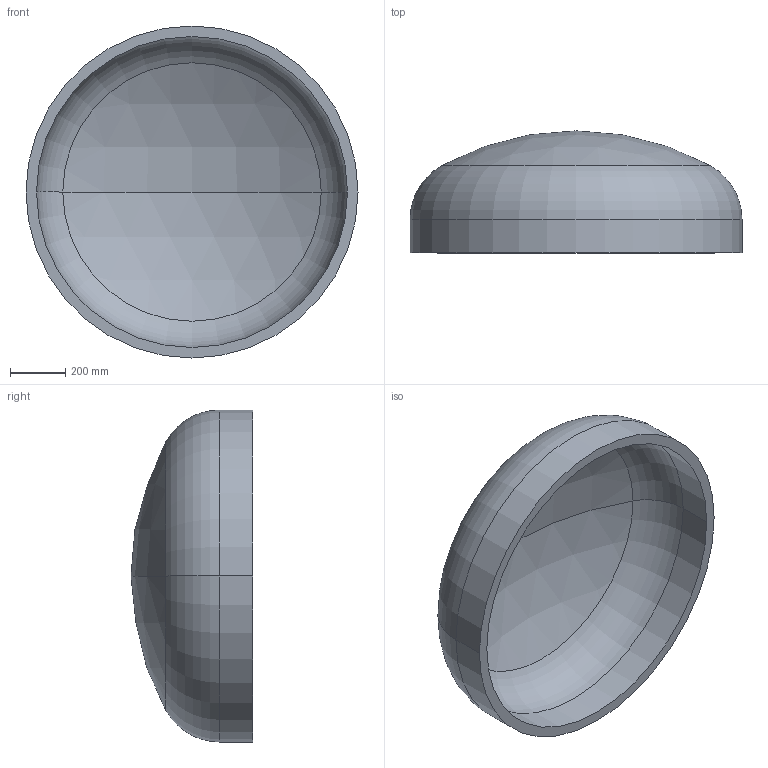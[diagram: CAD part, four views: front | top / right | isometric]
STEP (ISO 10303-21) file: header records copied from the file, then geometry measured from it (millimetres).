
FILE_DESCRIPTION (( 'STEP AP203' ), '1' );
FILE_NAME ('DIN 28013 Korbbogenform_-_Boden DIN 28013 - 1200 x 120 - I - s=38.step', '2016-07-01T09:27:56', ( '' ), ( '' ), 'SwSTEP 2.0', 'SolidWorks 2013', '' );
FILE_SCHEMA (( 'CONFIG_CONTROL_DESIGN' ));
Length unit declared in the file: millimetre
Products named in the file (1): DIN 28013 Korbbogenform_-_Boden DIN 28013 - 1200 x 120 - I - s=38
Bounding box: 1200 x 440.88 x 1200 mm (x, y, z)
Volume: 73772395.7 mm3; surface area: 4024501.1 mm2
Topology: 1 solids, 1 shells, 13 faces, 24 edges, 14 vertices
Faces by surface type: torus 4, cylinder 4, sphere 4, plane 1
Entity records: 407 total; most frequent: DIRECTION 72, CARTESIAN_POINT 52, ORIENTED_EDGE 48, AXIS2_PLACEMENT_3D 34, EDGE_CURVE 24, CIRCLE 20, EDGE_LOOP 14, VERTEX_POINT 14
